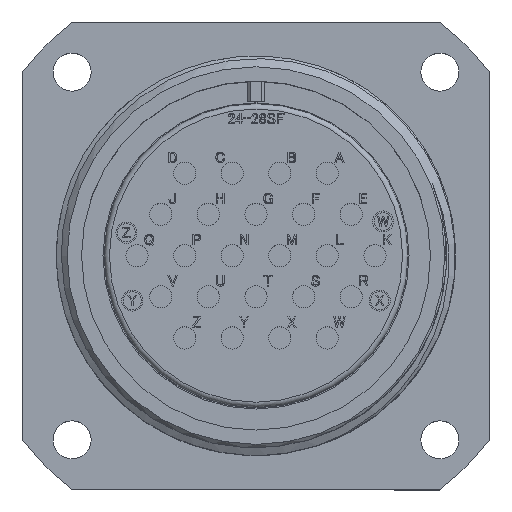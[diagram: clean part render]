
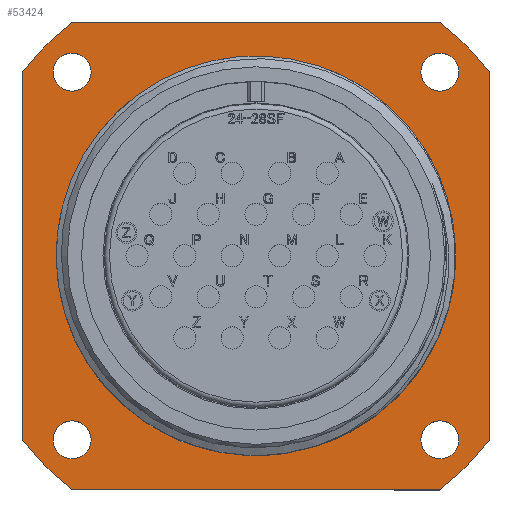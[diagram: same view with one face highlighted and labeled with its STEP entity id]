
A CAD part, top view. The second image highlights one B-rep face of the part: STEP entity #53424.
In plain terms, the highlighted planar face has unit normal (0, 0, 1).
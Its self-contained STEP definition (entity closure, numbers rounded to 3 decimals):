
#256 = DIRECTION ( 'NONE',  ( 1., 0., 0. ) ) ;
#387 = AXIS2_PLACEMENT_3D ( 'NONE', #57054, #43004, #38249 ) ;
#973 = AXIS2_PLACEMENT_3D ( 'NONE', #3935, #36159, #12340 ) ;
#1055 = CIRCLE ( 'NONE', #26804, 1.805 ) ;
#1398 = CARTESIAN_POINT ( 'NONE',  ( 22.225, -17.439, -20.8 ) ) ;
#3166 = VECTOR ( 'NONE', #6034, 1000. ) ;
#3705 = EDGE_LOOP ( 'NONE', ( #46030 ) ) ;
#3729 = PLANE ( 'NONE',  #973 ) ;
#3935 = CARTESIAN_POINT ( 'NONE',  ( 0., 0., -20.8 ) ) ;
#4012 = VERTEX_POINT ( 'NONE', #1398 ) ;
#5198 = CARTESIAN_POINT ( 'NONE',  ( 0., 0., -20.8 ) ) ;
#6034 = DIRECTION ( 'NONE',  ( 1., 0., 0. ) ) ;
#6349 = ORIENTED_EDGE ( 'NONE', *, *, #16433, .F. ) ;
#6560 = LINE ( 'NONE', #9244, #23413 ) ;
#6907 = CIRCLE ( 'NONE', #50883, 1.805 ) ;
#7287 = EDGE_LOOP ( 'NONE', ( #42889 ) ) ;
#8162 = CIRCLE ( 'NONE', #25166, 18.975 ) ;
#8421 = CARTESIAN_POINT ( 'NONE',  ( 0., 0., -20.8 ) ) ;
#9244 = CARTESIAN_POINT ( 'NONE',  ( 22.225, 22.225, -20.8 ) ) ;
#10193 = CARTESIAN_POINT ( 'NONE',  ( -15.66, 17.465, -20.8 ) ) ;
#11012 = VERTEX_POINT ( 'NONE', #56147 ) ;
#11046 = LINE ( 'NONE', #32328, #59673 ) ;
#12340 = DIRECTION ( 'NONE',  ( 1., 0., 0. ) ) ;
#12860 = VERTEX_POINT ( 'NONE', #33181 ) ;
#12912 = VERTEX_POINT ( 'NONE', #57118 ) ;
#13376 = DIRECTION ( 'NONE',  ( 1., 0., 0. ) ) ;
#13779 = DIRECTION ( 'NONE',  ( 0., 0., 1. ) ) ;
#15078 = CARTESIAN_POINT ( 'NONE',  ( 18.975, 0., -20.8 ) ) ;
#15166 = EDGE_CURVE ( 'NONE', #56820, #54128, #28069, .T. ) ;
#15280 = CIRCLE ( 'NONE', #387, 1.805 ) ;
#15441 = ORIENTED_EDGE ( 'NONE', *, *, #27807, .F. ) ;
#15608 = LINE ( 'NONE', #38644, #3166 ) ;
#15870 = CARTESIAN_POINT ( 'NONE',  ( -22.225, 17.439, -20.8 ) ) ;
#16433 = EDGE_CURVE ( 'NONE', #4012, #20846, #31669, .T. ) ;
#16875 = DIRECTION ( 'NONE',  ( 0., 0., -1. ) ) ;
#16920 = VERTEX_POINT ( 'NONE', #53461 ) ;
#17321 = DIRECTION ( 'NONE',  ( 0., 0., -1. ) ) ;
#18493 = CIRCLE ( 'NONE', #28357, 28.25 ) ;
#19446 = EDGE_LOOP ( 'NONE', ( #19709 ) ) ;
#19709 = ORIENTED_EDGE ( 'NONE', *, *, #35592, .F. ) ;
#20678 = VERTEX_POINT ( 'NONE', #15870 ) ;
#20846 = VERTEX_POINT ( 'NONE', #51462 ) ;
#22090 = DIRECTION ( 'NONE',  ( 0., -1., 0. ) ) ;
#22756 = LINE ( 'NONE', #30517, #38983 ) ;
#22838 = DIRECTION ( 'NONE',  ( 1., 0., 0. ) ) ;
#23368 = DIRECTION ( 'NONE',  ( 0., 0., 1. ) ) ;
#23413 = VECTOR ( 'NONE', #29436, 1000. ) ;
#24919 = EDGE_CURVE ( 'NONE', #4012, #11012, #6560, .T. ) ;
#25166 = AXIS2_PLACEMENT_3D ( 'NONE', #41135, #13779, #22838 ) ;
#25373 = EDGE_CURVE ( 'NONE', #31293, #31293, #15280, .T. ) ;
#25732 = CARTESIAN_POINT ( 'NONE',  ( 0., 0., -20.8 ) ) ;
#26392 = DIRECTION ( 'NONE',  ( 1., 0., 0. ) ) ;
#26450 = ORIENTED_EDGE ( 'NONE', *, *, #55628, .T. ) ;
#26804 = AXIS2_PLACEMENT_3D ( 'NONE', #45542, #35630, #26392 ) ;
#27807 = EDGE_CURVE ( 'NONE', #12912, #12912, #1055, .T. ) ;
#28069 = CIRCLE ( 'NONE', #48111, 28.25 ) ;
#28357 = AXIS2_PLACEMENT_3D ( 'NONE', #8421, #59667, #46024 ) ;
#29436 = DIRECTION ( 'NONE',  ( 0., 1., 0. ) ) ;
#29573 = ORIENTED_EDGE ( 'NONE', *, *, #32440, .F. ) ;
#30517 = CARTESIAN_POINT ( 'NONE',  ( -22.225, 22.225, -20.8 ) ) ;
#31293 = VERTEX_POINT ( 'NONE', #41831 ) ;
#31669 = CIRCLE ( 'NONE', #44198, 28.25 ) ;
#32055 = AXIS2_PLACEMENT_3D ( 'NONE', #59964, #17321, #55420 ) ;
#32328 = CARTESIAN_POINT ( 'NONE',  ( -22.225, 22.225, -20.8 ) ) ;
#32440 = EDGE_CURVE ( 'NONE', #12860, #12860, #46364, .T. ) ;
#32689 = EDGE_LOOP ( 'NONE', ( #15441 ) ) ;
#32953 = EDGE_CURVE ( 'NONE', #43780, #43780, #8162, .T. ) ;
#33181 = CARTESIAN_POINT ( 'NONE',  ( 19.27, 17.465, -20.8 ) ) ;
#34679 = FACE_BOUND ( 'NONE', #52629, .T. ) ;
#35592 = EDGE_CURVE ( 'NONE', #60785, #60785, #6907, .T. ) ;
#35630 = DIRECTION ( 'NONE',  ( 0., 0., 1. ) ) ;
#36159 = DIRECTION ( 'NONE',  ( 0., 0., 1. ) ) ;
#36945 = EDGE_CURVE ( 'NONE', #16920, #11012, #18493, .T. ) ;
#37000 = ORIENTED_EDGE ( 'NONE', *, *, #57862, .T. ) ;
#37214 = CARTESIAN_POINT ( 'NONE',  ( -17.439, 22.225, -20.8 ) ) ;
#37646 = FACE_BOUND ( 'NONE', #19446, .T. ) ;
#38249 = DIRECTION ( 'NONE',  ( 1., 0., 0. ) ) ;
#38644 = CARTESIAN_POINT ( 'NONE',  ( -22.225, -22.225, -20.8 ) ) ;
#38983 = VECTOR ( 'NONE', #22090, 1000. ) ;
#39109 = ORIENTED_EDGE ( 'NONE', *, *, #57808, .T. ) ;
#39840 = FACE_BOUND ( 'NONE', #3705, .T. ) ;
#40113 = ORIENTED_EDGE ( 'NONE', *, *, #55442, .F. ) ;
#41135 = CARTESIAN_POINT ( 'NONE',  ( 0., 0., -20.8 ) ) ;
#41307 = FACE_OUTER_BOUND ( 'NONE', #52643, .T. ) ;
#41831 = CARTESIAN_POINT ( 'NONE',  ( -15.66, -17.465, -20.8 ) ) ;
#41969 = CARTESIAN_POINT ( 'NONE',  ( -17.439, -22.225, -20.8 ) ) ;
#42290 = DIRECTION ( 'NONE',  ( 1., 0., 0. ) ) ;
#42889 = ORIENTED_EDGE ( 'NONE', *, *, #25373, .F. ) ;
#43004 = DIRECTION ( 'NONE',  ( 0., 0., 1. ) ) ;
#43780 = VERTEX_POINT ( 'NONE', #15078 ) ;
#44198 = AXIS2_PLACEMENT_3D ( 'NONE', #5198, #52461, #256 ) ;
#44491 = ORIENTED_EDGE ( 'NONE', *, *, #36945, .F. ) ;
#45542 = CARTESIAN_POINT ( 'NONE',  ( 17.465, -17.465, -20.8 ) ) ;
#46024 = DIRECTION ( 'NONE',  ( 1., 0., 0. ) ) ;
#46030 = ORIENTED_EDGE ( 'NONE', *, *, #32953, .F. ) ;
#46364 = CIRCLE ( 'NONE', #56754, 1.805 ) ;
#46505 = CARTESIAN_POINT ( 'NONE',  ( 17.465, 17.465, -20.8 ) ) ;
#47325 = VERTEX_POINT ( 'NONE', #37214 ) ;
#47645 = ORIENTED_EDGE ( 'NONE', *, *, #15166, .F. ) ;
#48111 = AXIS2_PLACEMENT_3D ( 'NONE', #25732, #16875, #53966 ) ;
#50883 = AXIS2_PLACEMENT_3D ( 'NONE', #60487, #23368, #42290 ) ;
#51257 = DIRECTION ( 'NONE',  ( 0., 0., 1. ) ) ;
#51462 = CARTESIAN_POINT ( 'NONE',  ( 17.439, -22.225, -20.8 ) ) ;
#52461 = DIRECTION ( 'NONE',  ( 0., 0., -1. ) ) ;
#52629 = EDGE_LOOP ( 'NONE', ( #29573 ) ) ;
#52643 = EDGE_LOOP ( 'NONE', ( #44491, #37000, #40113, #39109, #47645, #26450, #6349, #54878 ) ) ;
#53424 = ADVANCED_FACE ( 'NONE', ( #37646, #34679, #60520, #58348, #41307, #39840 ), #3729, .T. ) ;
#53461 = CARTESIAN_POINT ( 'NONE',  ( 17.439, 22.225, -20.8 ) ) ;
#53966 = DIRECTION ( 'NONE',  ( 1., 0., 0. ) ) ;
#54128 = VERTEX_POINT ( 'NONE', #56714 ) ;
#54878 = ORIENTED_EDGE ( 'NONE', *, *, #24919, .T. ) ;
#55420 = DIRECTION ( 'NONE',  ( 1., 0., 0. ) ) ;
#55442 = EDGE_CURVE ( 'NONE', #20678, #47325, #59842, .T. ) ;
#55478 = DIRECTION ( 'NONE',  ( -1., 0., 0. ) ) ;
#55628 = EDGE_CURVE ( 'NONE', #56820, #20846, #15608, .T. ) ;
#56147 = CARTESIAN_POINT ( 'NONE',  ( 22.225, 17.439, -20.8 ) ) ;
#56714 = CARTESIAN_POINT ( 'NONE',  ( -22.225, -17.439, -20.8 ) ) ;
#56754 = AXIS2_PLACEMENT_3D ( 'NONE', #46505, #51257, #13376 ) ;
#56820 = VERTEX_POINT ( 'NONE', #41969 ) ;
#57054 = CARTESIAN_POINT ( 'NONE',  ( -17.465, -17.465, -20.8 ) ) ;
#57118 = CARTESIAN_POINT ( 'NONE',  ( 19.27, -17.465, -20.8 ) ) ;
#57808 = EDGE_CURVE ( 'NONE', #20678, #54128, #22756, .T. ) ;
#57862 = EDGE_CURVE ( 'NONE', #16920, #47325, #11046, .T. ) ;
#58348 = FACE_BOUND ( 'NONE', #7287, .T. ) ;
#59667 = DIRECTION ( 'NONE',  ( 0., 0., -1. ) ) ;
#59673 = VECTOR ( 'NONE', #55478, 1000. ) ;
#59842 = CIRCLE ( 'NONE', #32055, 28.25 ) ;
#59964 = CARTESIAN_POINT ( 'NONE',  ( 0., 0., -20.8 ) ) ;
#60487 = CARTESIAN_POINT ( 'NONE',  ( -17.465, 17.465, -20.8 ) ) ;
#60520 = FACE_BOUND ( 'NONE', #32689, .T. ) ;
#60785 = VERTEX_POINT ( 'NONE', #10193 ) ;
